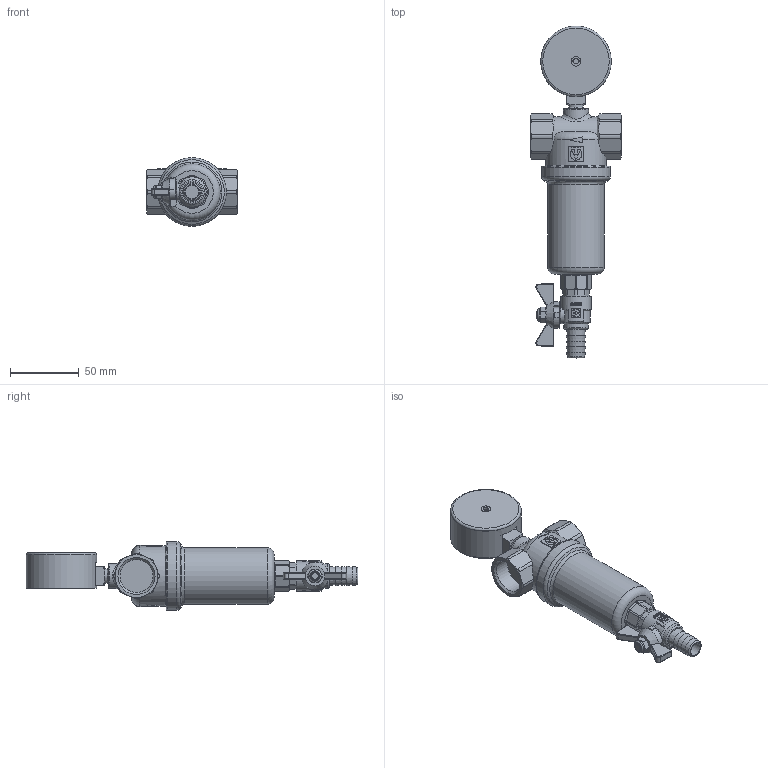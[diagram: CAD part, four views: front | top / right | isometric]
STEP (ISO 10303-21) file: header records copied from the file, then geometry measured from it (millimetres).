
FILE_DESCRIPTION(('STEP AP203'), '1');
FILE_NAME('VT.389.N.05', '', ('UNSPECIFIED'), ('UNSPECIFIED'), 'C3D Converter', 'C3D Toolkit', '');
FILE_SCHEMA(('CONFIG_CONTROL_DESIGN'));
Length unit declared in the file: millimetre
Products named in the file (1): ВР.061146.026.000 СБ
Bounding box: 66 x 241.3 x 50 mm (x, y, z)
Volume: 197169.8 mm3; surface area: 53310.3 mm2
Topology: 1 solids, 5 shells, 1021 faces, 2654 edges, 1721 vertices
Faces by surface type: plane 395, extrusion 319, cylinder 174, cone 81, torus 49, bspline 3
Full cylindrical faces by diameter (mm): 1 x1, 1.1 x1, 1.7 x2, 2.5 x3, 7.95 x1, 9.5 x1, 10 x1, 10.6 x1, 11 x1, 12.5 x1, 13.157 x1, 18 x1, 18.2 x1, 22 x1, 24.118 x2, 41 x1, 44 x1, 47.8 x1, 48 x1, 48.8 x1, 49.7 x1, 50 x1, 50.3 x1, 51.3 x1
Entity records: 46126 total; most frequent: CARTESIAN_POINT 23033, ORIENTED_EDGE 5182, DIRECTION 3829, EDGE_CURVE 2591, VERTEX_POINT 1717, VECTOR 1361, AXIS2_PLACEMENT_3D 1234, B_SPLINE_CURVE_WITH_KNOTS 1208
